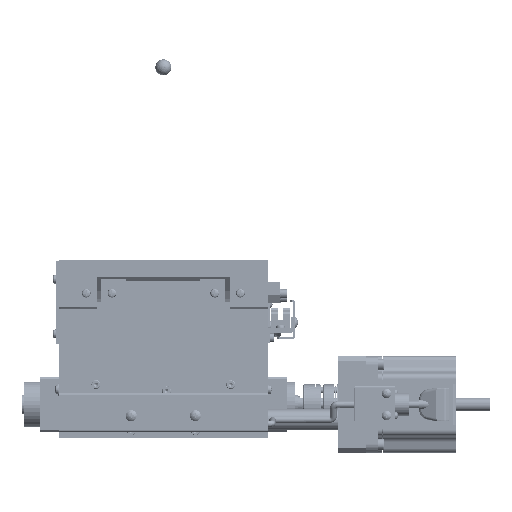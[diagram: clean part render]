
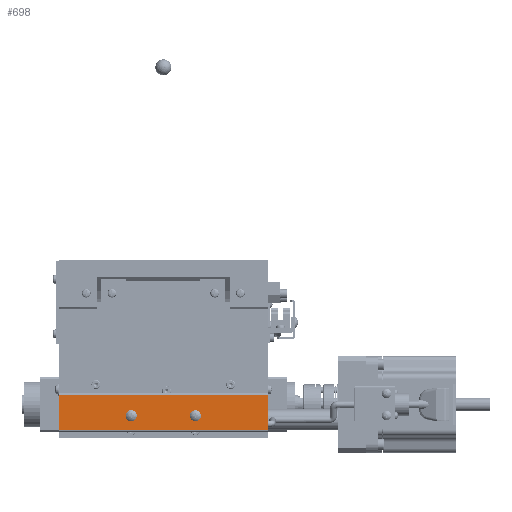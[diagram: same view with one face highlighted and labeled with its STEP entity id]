
A CAD part, front view. The second image highlights one B-rep face of the part: STEP entity #698.
In plain terms, the highlighted planar face has unit normal (0, -1, 0).
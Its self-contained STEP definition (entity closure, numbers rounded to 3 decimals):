
#698 = ADVANCED_FACE ( 'NONE', ( #113946 ), #25294, .T. ) ;
#5035 = CARTESIAN_POINT ( 'NONE',  ( -455.874, -257.221, -368.54 ) ) ;
#9906 = LINE ( 'NONE', #129330, #50462 ) ;
#9940 = VECTOR ( 'NONE', #17735, 1000. ) ;
#16573 = CARTESIAN_POINT ( 'NONE',  ( -455.874, -257.221, -346.54 ) ) ;
#17171 = VECTOR ( 'NONE', #100474, 1000. ) ;
#17735 = DIRECTION ( 'NONE',  ( -1., 0., 0. ) ) ;
#25294 = PLANE ( 'NONE',  #72472 ) ;
#26444 = DIRECTION ( 'NONE',  ( 0., -1., 0. ) ) ;
#26530 = EDGE_CURVE ( 'NONE', #67858, #84843, #91979, .T. ) ;
#31186 = CARTESIAN_POINT ( 'NONE',  ( -520.874, -257.221, -346.54 ) ) ;
#39585 = CARTESIAN_POINT ( 'NONE',  ( -455.874, -257.221, -357.54 ) ) ;
#46214 = LINE ( 'NONE', #16573, #9940 ) ;
#49921 = CARTESIAN_POINT ( 'NONE',  ( -520.874, -257.221, -368.54 ) ) ;
#50462 = VECTOR ( 'NONE', #75656, 1000. ) ;
#51275 = DIRECTION ( 'NONE',  ( 0., 0., 1. ) ) ;
#57006 = EDGE_CURVE ( 'NONE', #72571, #84843, #9906, .T. ) ;
#67858 = VERTEX_POINT ( 'NONE', #49921 ) ;
#72472 = AXIS2_PLACEMENT_3D ( 'NONE', #39585, #26444, #120154 ) ;
#72571 = VERTEX_POINT ( 'NONE', #171135 ) ;
#75656 = DIRECTION ( 'NONE',  ( 0., 0., -1. ) ) ;
#79201 = LINE ( 'NONE', #145597, #147503 ) ;
#84843 = VERTEX_POINT ( 'NONE', #105087 ) ;
#91979 = LINE ( 'NONE', #5035, #17171 ) ;
#100474 = DIRECTION ( 'NONE',  ( 1., 0., 0. ) ) ;
#101521 = ORIENTED_EDGE ( 'NONE', *, *, #129664, .T. ) ;
#105087 = CARTESIAN_POINT ( 'NONE',  ( -390.874, -257.221, -368.54 ) ) ;
#110317 = EDGE_CURVE ( 'NONE', #67858, #140165, #79201, .T. ) ;
#113946 = FACE_OUTER_BOUND ( 'NONE', #142117, .T. ) ;
#114414 = ORIENTED_EDGE ( 'NONE', *, *, #110317, .F. ) ;
#120154 = DIRECTION ( 'NONE',  ( -1., 0., 0. ) ) ;
#121251 = ORIENTED_EDGE ( 'NONE', *, *, #26530, .T. ) ;
#129330 = CARTESIAN_POINT ( 'NONE',  ( -390.874, -257.221, -357.54 ) ) ;
#129664 = EDGE_CURVE ( 'NONE', #72571, #140165, #46214, .T. ) ;
#131521 = ORIENTED_EDGE ( 'NONE', *, *, #57006, .F. ) ;
#140165 = VERTEX_POINT ( 'NONE', #31186 ) ;
#142117 = EDGE_LOOP ( 'NONE', ( #114414, #121251, #131521, #101521 ) ) ;
#145597 = CARTESIAN_POINT ( 'NONE',  ( -520.874, -257.221, -357.54 ) ) ;
#147503 = VECTOR ( 'NONE', #51275, 1000. ) ;
#171135 = CARTESIAN_POINT ( 'NONE',  ( -390.874, -257.221, -346.54 ) ) ;
